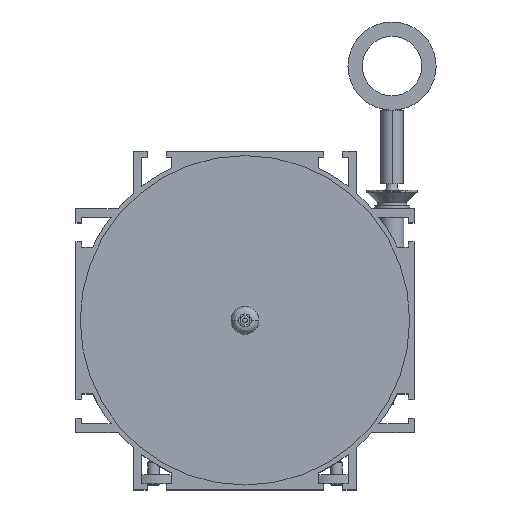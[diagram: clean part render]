
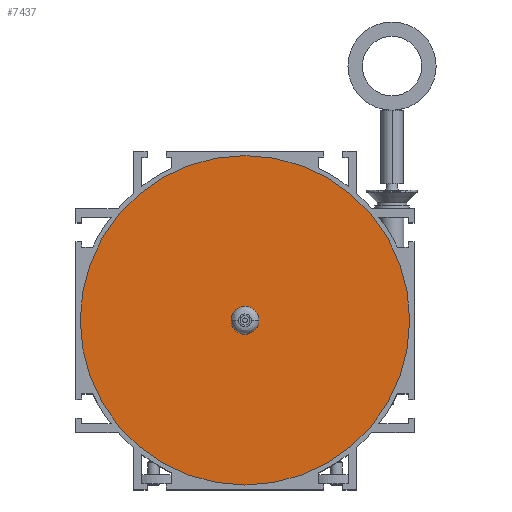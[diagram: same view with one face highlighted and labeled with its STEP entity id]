
A CAD part, top view. The second image highlights one B-rep face of the part: STEP entity #7437.
In plain terms, the highlighted planar face has unit normal (0, 0, 1).
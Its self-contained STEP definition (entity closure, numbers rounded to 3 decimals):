
#1905=CARTESIAN_POINT('',(0.,0.,105.5));
#1906=DIRECTION('',(0.,0.,1.));
#1907=DIRECTION('',(-1.,0.,0.));
#1908=AXIS2_PLACEMENT_3D('',#1905,#1906,#1907);
#1910=CARTESIAN_POINT('',(0.,0.,105.5));
#1911=DIRECTION('',(0.,0.,-1.));
#1912=DIRECTION('',(-1.,0.,0.));
#1913=AXIS2_PLACEMENT_3D('',#1910,#1911,#1912);
#1915=CARTESIAN_POINT('',(0.,0.,105.5));
#1916=DIRECTION('',(0.,0.,1.));
#1917=DIRECTION('',(-1.,0.,0.));
#1918=AXIS2_PLACEMENT_3D('',#1915,#1916,#1917);
#1920=CARTESIAN_POINT('',(0.,0.,105.5));
#1921=DIRECTION('',(0.,0.,1.));
#1922=DIRECTION('',(1.,0.,0.));
#1923=AXIS2_PLACEMENT_3D('',#1920,#1921,#1922);
#4395=CARTESIAN_POINT('',(-56.,0.,105.5));
#4396=CARTESIAN_POINT('',(56.,0.,105.5));
#4397=VERTEX_POINT('',#4395);
#4398=VERTEX_POINT('',#4396);
#4476=CARTESIAN_POINT('',(-4.75,0.,105.5));
#4477=CARTESIAN_POINT('',(4.75,0.,105.5));
#4478=VERTEX_POINT('',#4476);
#4479=VERTEX_POINT('',#4477);
#7422=CARTESIAN_POINT('',(0.,0.,105.5));
#7423=DIRECTION('',(0.,0.,-1.));
#7424=DIRECTION('',(1.,0.,0.));
#7425=AXIS2_PLACEMENT_3D('',#7422,#7423,#7424);
#7426=PLANE('',#7425);
#7427=ORIENTED_EDGE('',*,*,#7416,.F.);
#7428=ORIENTED_EDGE('',*,*,#7402,.T.);
#7429=EDGE_LOOP('',(#7427,#7428));
#7430=FACE_OUTER_BOUND('',#7429,.F.);
#7432=ORIENTED_EDGE('',*,*,#7431,.T.);
#7434=ORIENTED_EDGE('',*,*,#7433,.T.);
#7435=EDGE_LOOP('',(#7432,#7434));
#7436=FACE_BOUND('',#7435,.F.);
#1909=CIRCLE('',#1908,56.);
#1914=CIRCLE('',#1913,56.);
#1919=CIRCLE('',#1918,4.75);
#1924=CIRCLE('',#1923,4.75);
#7402=EDGE_CURVE('',#4397,#4398,#1914,.T.);
#7416=EDGE_CURVE('',#4397,#4398,#1909,.T.);
#7431=EDGE_CURVE('',#4478,#4479,#1919,.T.);
#7433=EDGE_CURVE('',#4479,#4478,#1924,.T.);
#7437=ADVANCED_FACE('',(#7430,#7436),#7426,.F.);
